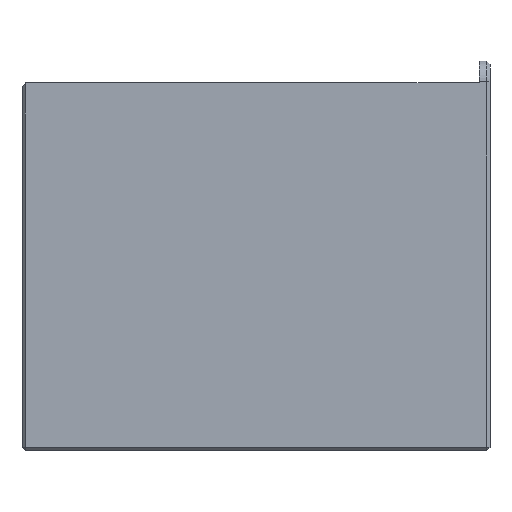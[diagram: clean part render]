
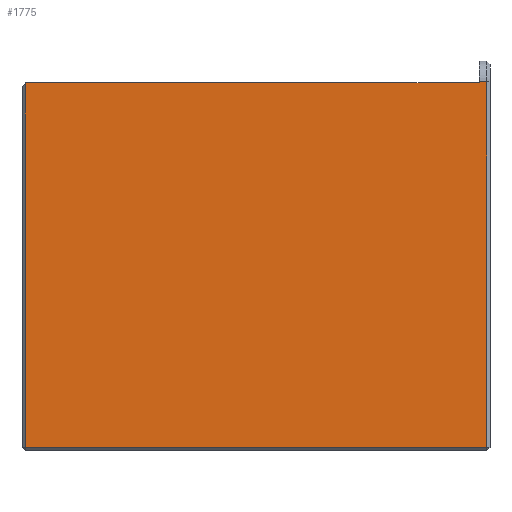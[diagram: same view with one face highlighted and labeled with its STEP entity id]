
A CAD part, front view. The second image highlights one B-rep face of the part: STEP entity #1775.
In plain terms, the highlighted planar face has unit normal (0, -1, 0).
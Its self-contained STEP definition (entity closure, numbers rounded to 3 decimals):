
#208=FACE_OUTER_BOUND('',#309,.T.);
#309=EDGE_LOOP('',(#1596,#1597,#1598,#1599,#1600,#1601));
#321=LINE('',#2460,#514);
#324=LINE('',#2464,#517);
#348=LINE('',#2514,#541);
#473=LINE('',#2876,#666);
#501=LINE('',#3055,#694);
#503=LINE('',#3058,#696);
#514=VECTOR('',#1962,10.);
#517=VECTOR('',#1967,10.);
#541=VECTOR('',#2015,10.);
#666=VECTOR('',#2324,10.);
#694=VECTOR('',#2422,10.);
#696=VECTOR('',#2426,10.);
#698=VERTEX_POINT('',#2437);
#702=VERTEX_POINT('',#2446);
#705=VERTEX_POINT('',#2453);
#707=VERTEX_POINT('',#2458);
#830=VERTEX_POINT('',#2873);
#831=VERTEX_POINT('',#2875);
#860=EDGE_CURVE('',#707,#705,#321,.T.);
#863=EDGE_CURVE('',#705,#702,#324,.T.);
#889=EDGE_CURVE('',#702,#698,#348,.T.);
#1056=EDGE_CURVE('',#831,#830,#473,.T.);
#1099=EDGE_CURVE('',#830,#698,#501,.T.);
#1101=EDGE_CURVE('',#831,#707,#503,.T.);
#1596=ORIENTED_EDGE('',*,*,#860,.F.);
#1597=ORIENTED_EDGE('',*,*,#1101,.F.);
#1598=ORIENTED_EDGE('',*,*,#1056,.T.);
#1599=ORIENTED_EDGE('',*,*,#1099,.T.);
#1600=ORIENTED_EDGE('',*,*,#889,.F.);
#1601=ORIENTED_EDGE('',*,*,#863,.F.);
#1674=PLANE('',#1937);
#1775=ADVANCED_FACE('',(#208),#1674,.T.);
#1937=AXIS2_PLACEMENT_3D('',#3059,#2427,#2428);
#1962=DIRECTION('',(0.,0.,-1.));
#1967=DIRECTION('',(-1.,0.,0.));
#2015=DIRECTION('',(0.,0.,1.));
#2324=DIRECTION('',(0.,0.,-1.));
#2422=DIRECTION('',(-1.,0.,0.));
#2426=DIRECTION('',(1.,0.,0.));
#2427=DIRECTION('center_axis',(0.,-1.,0.));
#2428=DIRECTION('ref_axis',(0.,0.,1.));
#2437=CARTESIAN_POINT('',(-106.75,-109.75,184.75));
#2446=CARTESIAN_POINT('',(-106.75,-109.75,101.));
#2453=CARTESIAN_POINT('',(-0.75,-109.75,101.));
#2458=CARTESIAN_POINT('',(-0.75,-109.75,185.));
#2460=CARTESIAN_POINT('',(-0.75,-109.75,122.625));
#2464=CARTESIAN_POINT('',(0.,-109.75,101.));
#2514=CARTESIAN_POINT('',(-106.75,-109.75,121.438));
#2873=CARTESIAN_POINT('',(-2.5,-109.75,184.75));
#2875=CARTESIAN_POINT('',(-2.5,-109.75,185.));
#2876=CARTESIAN_POINT('',(-2.5,-109.75,130.063));
#3055=CARTESIAN_POINT('',(-1.5,-109.75,184.75));
#3058=CARTESIAN_POINT('',(0.,-109.75,185.));
#3059=CARTESIAN_POINT('Origin',(0.,-109.75,100.25));
